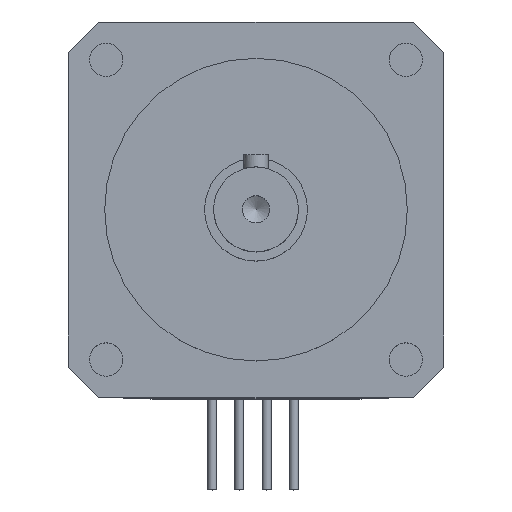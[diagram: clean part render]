
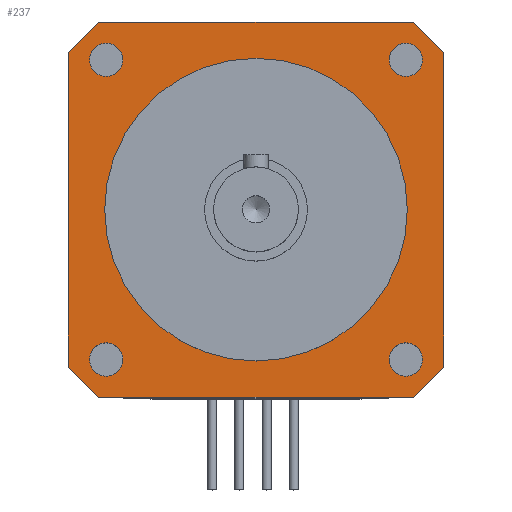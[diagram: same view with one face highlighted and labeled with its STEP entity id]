
A CAD part, top view. The second image highlights one B-rep face of the part: STEP entity #237.
In plain terms, the highlighted planar face has unit normal (0, 0, 1).
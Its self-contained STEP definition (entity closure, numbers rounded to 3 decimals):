
#237=ADVANCED_FACE('',(#754,#755,#756,#757,#758,#759),#346,.F.);
#346=PLANE('',#2013);
#419=LINE('',#2868,#587);
#420=LINE('',#2871,#588);
#421=LINE('',#2873,#589);
#422=LINE('',#2875,#590);
#423=LINE('',#2877,#591);
#424=LINE('',#2879,#592);
#425=LINE('',#2881,#593);
#426=LINE('',#2883,#594);
#587=VECTOR('',#2231,1.);
#588=VECTOR('',#2232,1.);
#589=VECTOR('',#2233,1.);
#590=VECTOR('',#2234,1.);
#591=VECTOR('',#2235,1.);
#592=VECTOR('',#2236,1.);
#593=VECTOR('',#2237,1.);
#594=VECTOR('',#2238,1.);
#754=FACE_BOUND('',#816,.T.);
#755=FACE_BOUND('',#817,.T.);
#756=FACE_BOUND('',#818,.T.);
#757=FACE_BOUND('',#819,.T.);
#758=FACE_BOUND('',#820,.T.);
#759=FACE_BOUND('',#821,.T.);
#816=EDGE_LOOP('',(#972));
#817=EDGE_LOOP('',(#973));
#818=EDGE_LOOP('',(#974,#975,#976,#977,#978,#979,#980,#981));
#819=EDGE_LOOP('',(#982));
#820=EDGE_LOOP('',(#983));
#821=EDGE_LOOP('',(#984));
#972=ORIENTED_EDGE('',*,*,#1671,.F.);
#973=ORIENTED_EDGE('',*,*,#1672,.F.);
#974=ORIENTED_EDGE('',*,*,#1673,.F.);
#975=ORIENTED_EDGE('',*,*,#1674,.T.);
#976=ORIENTED_EDGE('',*,*,#1675,.F.);
#977=ORIENTED_EDGE('',*,*,#1676,.T.);
#978=ORIENTED_EDGE('',*,*,#1677,.F.);
#979=ORIENTED_EDGE('',*,*,#1678,.T.);
#980=ORIENTED_EDGE('',*,*,#1679,.F.);
#981=ORIENTED_EDGE('',*,*,#1680,.T.);
#982=ORIENTED_EDGE('',*,*,#1681,.T.);
#983=ORIENTED_EDGE('',*,*,#1682,.F.);
#984=ORIENTED_EDGE('',*,*,#1683,.T.);
#1488=VERTEX_POINT('',#2865);
#1489=VERTEX_POINT('',#2867);
#1490=VERTEX_POINT('',#2869);
#1491=VERTEX_POINT('',#2870);
#1492=VERTEX_POINT('',#2872);
#1493=VERTEX_POINT('',#2874);
#1494=VERTEX_POINT('',#2876);
#1495=VERTEX_POINT('',#2878);
#1496=VERTEX_POINT('',#2880);
#1497=VERTEX_POINT('',#2882);
#1498=VERTEX_POINT('',#2885);
#1499=VERTEX_POINT('',#2887);
#1500=VERTEX_POINT('',#2889);
#1671=EDGE_CURVE('',#1488,#1488,#1917,.T.);
#1672=EDGE_CURVE('',#1489,#1489,#1918,.T.);
#1673=EDGE_CURVE('',#1490,#1491,#419,.T.);
#1674=EDGE_CURVE('',#1490,#1492,#420,.T.);
#1675=EDGE_CURVE('',#1493,#1492,#421,.T.);
#1676=EDGE_CURVE('',#1493,#1494,#422,.T.);
#1677=EDGE_CURVE('',#1495,#1494,#423,.T.);
#1678=EDGE_CURVE('',#1495,#1496,#424,.T.);
#1679=EDGE_CURVE('',#1497,#1496,#425,.T.);
#1680=EDGE_CURVE('',#1497,#1491,#426,.T.);
#1681=EDGE_CURVE('',#1498,#1498,#1919,.T.);
#1682=EDGE_CURVE('',#1499,#1499,#1920,.T.);
#1683=EDGE_CURVE('',#1500,#1500,#1921,.T.);
#1917=CIRCLE('',#2008,2.75);
#1918=CIRCLE('',#2009,2.75);
#1919=CIRCLE('',#2010,25.);
#1920=CIRCLE('',#2011,2.75);
#1921=CIRCLE('',#2012,2.75);
#2008=AXIS2_PLACEMENT_3D('',#2864,#2227,#2228);
#2009=AXIS2_PLACEMENT_3D('',#2866,#2229,#2230);
#2010=AXIS2_PLACEMENT_3D('',#2884,#2239,#2240);
#2011=AXIS2_PLACEMENT_3D('',#2886,#2241,#2242);
#2012=AXIS2_PLACEMENT_3D('',#2888,#2243,#2244);
#2013=AXIS2_PLACEMENT_3D('',#2890,#2245,#2246);
#2227=DIRECTION('',(0.,0.,1.));
#2228=DIRECTION('',(1.,0.,0.));
#2229=DIRECTION('',(0.,0.,1.));
#2230=DIRECTION('',(1.,0.,0.));
#2231=DIRECTION('',(0.,1.,0.));
#2232=DIRECTION('',(0.707,-0.707,0.));
#2233=DIRECTION('',(-1.,0.,0.));
#2234=DIRECTION('',(0.707,0.707,0.));
#2235=DIRECTION('',(0.,-1.,0.));
#2236=DIRECTION('',(-0.707,0.707,0.));
#2237=DIRECTION('',(1.,0.,0.));
#2238=DIRECTION('',(-0.707,-0.707,0.));
#2239=DIRECTION('',(0.,0.,-1.));
#2240=DIRECTION('',(1.,0.,0.));
#2241=DIRECTION('',(0.,0.,1.));
#2242=DIRECTION('',(1.,0.,0.));
#2243=DIRECTION('',(0.,0.,-1.));
#2244=DIRECTION('',(1.,0.,0.));
#2245=DIRECTION('',(0.,0.,-1.));
#2246=DIRECTION('',(-1.,0.,0.));
#2864=CARTESIAN_POINT('',(-24.749,24.749,0.));
#2865=CARTESIAN_POINT('',(-21.999,24.749,0.));
#2866=CARTESIAN_POINT('',(24.749,-24.749,0.));
#2867=CARTESIAN_POINT('',(27.499,-24.749,0.));
#2868=CARTESIAN_POINT('',(-31.,-31.,0.));
#2869=CARTESIAN_POINT('',(-31.,-26.,0.));
#2870=CARTESIAN_POINT('',(-31.,26.,0.));
#2871=CARTESIAN_POINT('',(-31.,-26.,0.));
#2872=CARTESIAN_POINT('',(-26.,-31.,0.));
#2873=CARTESIAN_POINT('',(31.,-31.,0.));
#2874=CARTESIAN_POINT('',(26.,-31.,0.));
#2875=CARTESIAN_POINT('',(26.,-31.,0.));
#2876=CARTESIAN_POINT('',(31.,-26.,0.));
#2877=CARTESIAN_POINT('',(31.,31.,0.));
#2878=CARTESIAN_POINT('',(31.,26.,0.));
#2879=CARTESIAN_POINT('',(31.,26.,0.));
#2880=CARTESIAN_POINT('',(26.,31.,0.));
#2881=CARTESIAN_POINT('',(-31.,31.,0.));
#2882=CARTESIAN_POINT('',(-26.,31.,0.));
#2883=CARTESIAN_POINT('',(-26.,31.,0.));
#2884=CARTESIAN_POINT('',(0.,0.,0.));
#2885=CARTESIAN_POINT('',(25.,0.,0.));
#2886=CARTESIAN_POINT('',(24.749,24.749,0.));
#2887=CARTESIAN_POINT('',(27.499,24.749,0.));
#2888=CARTESIAN_POINT('',(-24.749,-24.749,0.));
#2889=CARTESIAN_POINT('',(-21.999,-24.749,0.));
#2890=CARTESIAN_POINT('',(-31.,-31.,0.));
